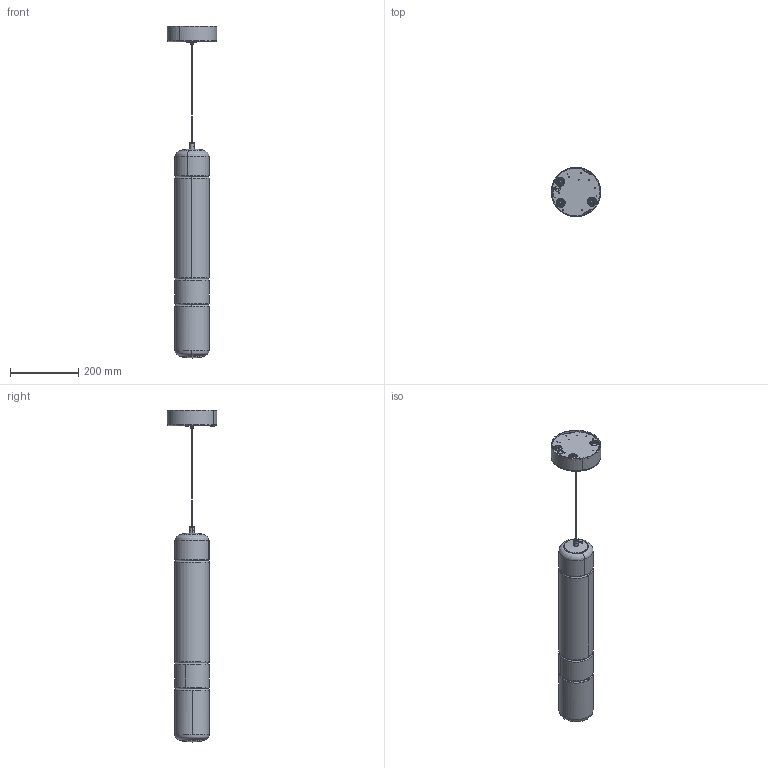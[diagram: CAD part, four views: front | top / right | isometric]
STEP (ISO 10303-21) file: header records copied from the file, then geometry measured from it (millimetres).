
FILE_DESCRIPTION(/* description */ (''),/* implementation_level */ '2;1');
FILE_NAME(/* name */ '00343MP2LD00CEPB - STACKING S 60 V GLASS EMEA',/* time_stamp */ '2023-09-27T17:17:29+02:00',/* author */ (''),/* organization */ (''),/* preprocessor_version */ 'ST-DEVELOPER v16.5',/* originating_system */ 'Rhino 7.27',/* authorisation */ '');
FILE_SCHEMA (('CONFIG_CONTROL_DESIGN'));
Length unit declared in the file: millimetre
Products named in the file (1): Document
Bounding box: 144.93 x 144.79 x 972.06 mm (x, y, z)
Volume: 1081787.7 mm3; surface area: 904582.7 mm2
Topology: 22 solids, 22 shells, 758 faces, 1865 edges, 1211 vertices
Faces by surface type: plane 289, cylinder 273, bspline 196
Entity records: 26220 total; most frequent: CARTESIAN_POINT 14063, ORIENTED_EDGE 3710, EDGE_CURVE 1855, VERTEX_POINT 1211, EDGE_LOOP 932, B_SPLINE_CURVE_WITH_KNOTS 776, ADVANCED_FACE 758, FACE_OUTER_BOUND 758
